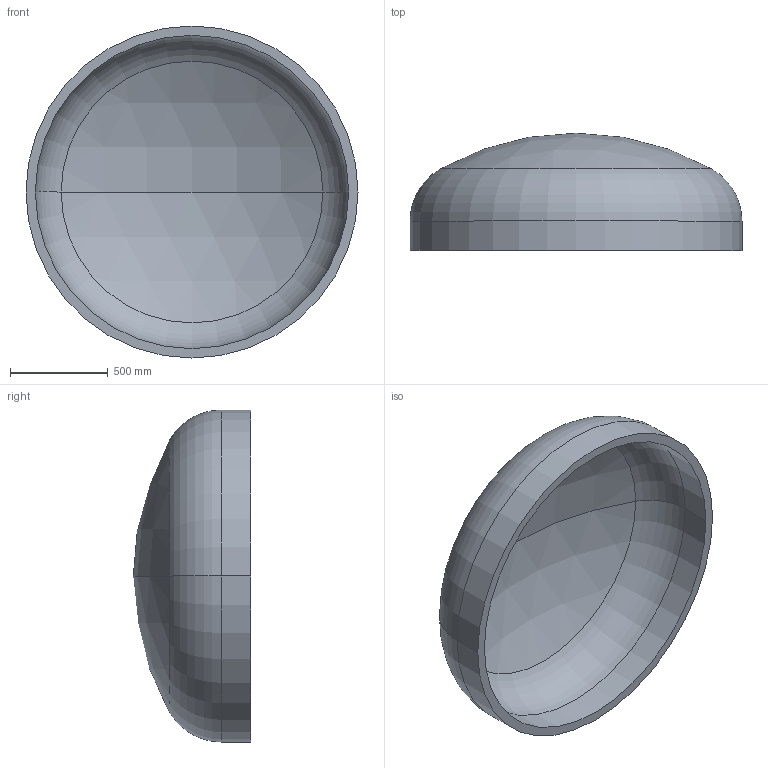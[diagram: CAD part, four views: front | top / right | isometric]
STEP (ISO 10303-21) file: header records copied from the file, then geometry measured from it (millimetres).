
FILE_DESCRIPTION (( 'STEP AP203' ), '1' );
FILE_NAME ('DIN 28013 Korbbogenform_-_Boden DIN 28013 - 1700 x 150 - I - s=48.step', '2016-07-01T11:52:21', ( '' ), ( '' ), 'SwSTEP 2.0', 'SolidWorks 2013', '' );
FILE_SCHEMA (( 'CONFIG_CONTROL_DESIGN' ));
Length unit declared in the file: millimetre
Products named in the file (1): DIN 28013 Korbbogenform_-_Boden DIN 28013 - 1700 x 150 - I - s=48
Bounding box: 1700 x 600.8 x 1700 mm (x, y, z)
Volume: 182589506.4 mm3; surface area: 7861835.2 mm2
Topology: 1 solids, 1 shells, 13 faces, 24 edges, 14 vertices
Faces by surface type: torus 4, cylinder 4, sphere 4, plane 1
Entity records: 407 total; most frequent: DIRECTION 72, CARTESIAN_POINT 52, ORIENTED_EDGE 48, AXIS2_PLACEMENT_3D 34, EDGE_CURVE 24, CIRCLE 20, VERTEX_POINT 14, EDGE_LOOP 14
